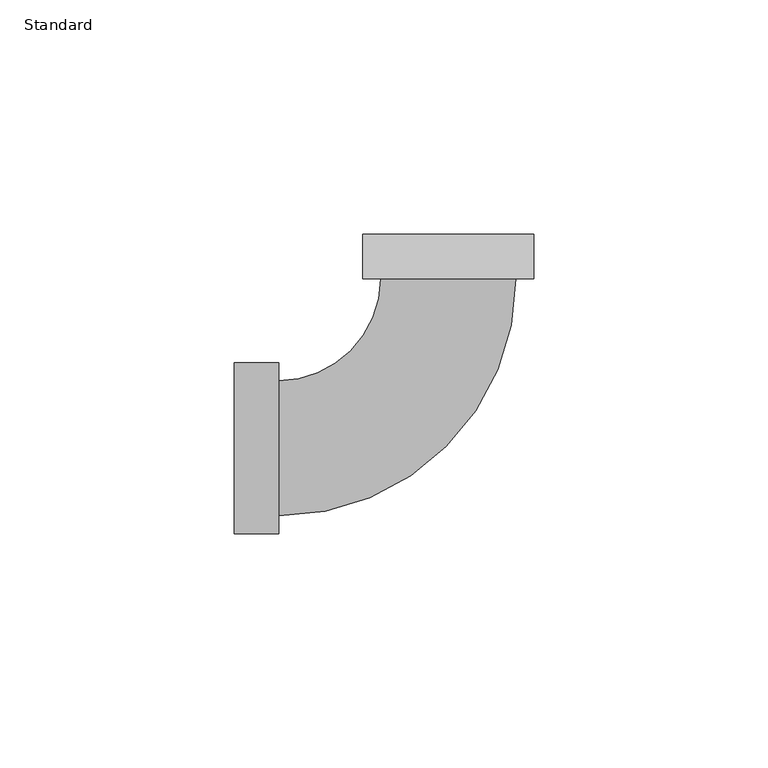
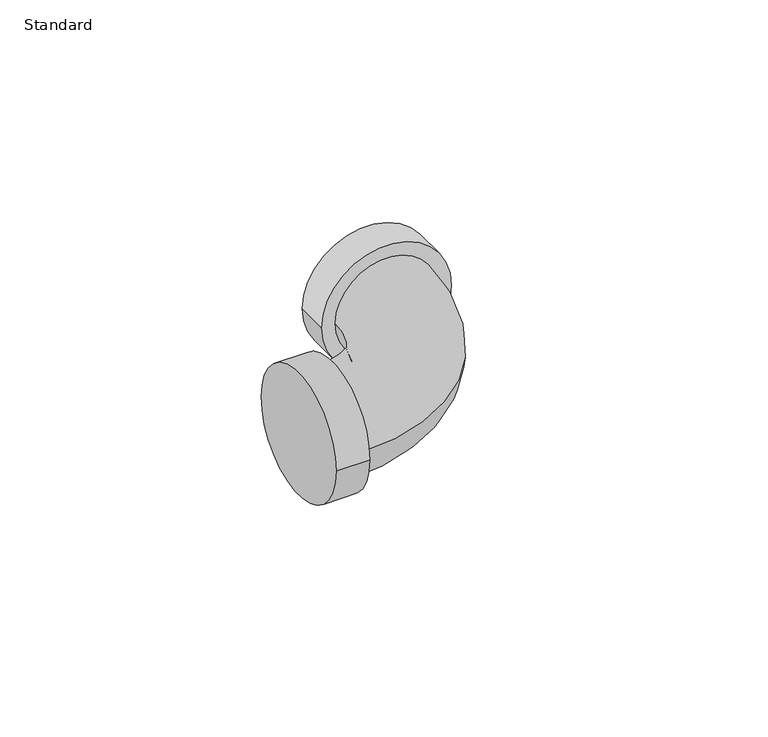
"""IFC4 building model written with IfcOpenShell, lengths in millimetres: pipe fitting geometry, Elbow_45_90-Lubrizol-CPVC-FlowGuard_MX : Standard."""

from ifc_helpers import new_model, si_unit, point, frame, origin, place, context, project, spatial, circle_curve, ellipse_curve, trimmed, source, transform, mapped, element, save
from ifc_brep_helpers import plane_surface, cylinder_surface, revolved_surface, advanced_brep


def standard_4a518940(model_context):
    return source(origin(), model_context, "Body", "AdvancedBrep", [
        advanced_brep(
        [(-45.6540625, -18.2471094, 0.0), (-45.6540625, 18.2471094, 0.0), (-36.1540625, -18.2471094, 0.0), (-36.1540625, 18.2471094, 0.0), (-36.1540625, -14.4440625, 0.0), (-36.1540625, 14.4440625, 0.0), (-14.4440625, 36.1540625, 0.0), (14.4440625, 36.1540625, 0.0), (18.2471094, 36.1540625, 0.0), (-18.2471094, 36.1540625, 0.0), (18.2471094, 45.6540625, 0.0), (-18.2471094, 45.6540625, 0.0)],
        [
            (0, 1, circle_curve(frame((-45.6540625, 0.0, 0.0), z_axis=(-1.0, 0.0, 0.0), x_axis=(0.0, 1.0, 0.0)), 18.2471094)),
            (1, 0, circle_curve(frame((-45.6540625, 0.0, 0.0), z_axis=(-1.0, 0.0, 0.0), x_axis=(0.0, 1.0, 0.0)), 18.2471094)),
            (2, 3, circle_curve(frame((-36.1540625, 0.0, 0.0), z_axis=(1.0, 0.0, 0.0), x_axis=(0.0, 1.0, 0.0)), 18.2471094)),
            (3, 2, circle_curve(frame((-36.1540625, 0.0, 0.0), z_axis=(1.0, 0.0, 0.0), x_axis=(0.0, 1.0, 0.0)), 18.2471094)),
            (4, 5, circle_curve(frame((-36.1540625, 0.0, 0.0), z_axis=(-1.0, 0.0, 0.0), x_axis=(0.0, 1.0, 0.0)), 14.4440625)),
            (5, 4, circle_curve(frame((-36.1540625, 0.0, 0.0), z_axis=(-1.0, 0.0, 0.0), x_axis=(0.0, 1.0, 0.0)), 14.4440625)),
            (0, 2),
            (3, 1),
            (6, 5, circle_curve(frame((-36.1540625, 36.1540625, 0.0), z_axis=(0.0, 0.0, -1.0), x_axis=(0.0, -1.0, 0.0)), 21.71)),
            (4, 7, circle_curve(frame((-36.1540625, 36.1540625, 0.0), z_axis=(0.0, 0.0, 1.0), x_axis=(0.0, -1.0, 0.0)), 50.598125)),
            (7, 6, circle_curve(frame((0.0, 36.1540625, 0.0), z_axis=(0.0, -1.0, 0.0), x_axis=(-1.0, 0.0, 0.0)), 14.4440625)),
            (6, 7, circle_curve(frame((0.0, 36.1540625, 0.0), z_axis=(0.0, -1.0, 0.0), x_axis=(-1.0, 0.0, 0.0)), 14.4440625)),
            (8, 9, circle_curve(frame((0.0, 36.1540625, 0.0), z_axis=(0.0, -1.0, 0.0), x_axis=(-1.0, 0.0, 0.0)), 18.2471094)),
            (9, 8, circle_curve(frame((0.0, 36.1540625, 0.0), z_axis=(0.0, -1.0, 0.0), x_axis=(-1.0, 0.0, 0.0)), 18.2471094)),
            (10, 11, circle_curve(frame((0.0, 45.6540625, 0.0), z_axis=(0.0, 1.0, 0.0), x_axis=(-1.0, 0.0, 0.0)), 18.2471094)),
            (11, 10, circle_curve(frame((0.0, 45.6540625, 0.0), z_axis=(0.0, 1.0, 0.0), x_axis=(-1.0, 0.0, 0.0)), 18.2471094)),
            (8, 10),
            (11, 9),
        ],
        [
            plane_surface(frame((-45.6540625, 0.0, 0.0), z_axis=(-1.0, 0.0, 0.0), x_axis=(0.0, 0.0, 1.0))),
            plane_surface(frame((-36.1540625, 0.0, 0.0), z_axis=(1.0, 0.0, 0.0), x_axis=(0.0, 0.0, 1.0))),
            cylinder_surface(frame((-45.6540625, 0.0, 0.0), z_axis=(-1.0, 0.0, 0.0), x_axis=(0.0, 1.0, 0.0)), 18.2471094),
            revolved_surface(trimmed(ellipse_curve(frame((-36.1540625, 0.0, 0.0), z_axis=(-1.0, 0.0, 0.0), x_axis=(0.0, 1.0, 0.0)), 14.4440625, 14.4440625), [point((-36.1540625, -14.4440625, 0.0))], [point((-36.1540625, 14.4440625, 0.0))], True, "CARTESIAN"), (-36.1540625, 36.1540625, 0.0), (0.0, 0.0, 1.0)),
            revolved_surface(trimmed(ellipse_curve(frame((-36.1540625, 0.0, 0.0), z_axis=(-1.0, 0.0, 0.0), x_axis=(0.0, 1.0, 0.0)), 14.4440625, 14.4440625), [point((-36.1540625, 14.4440625, 0.0))], [point((-36.1540625, -14.4440625, 0.0))], True, "CARTESIAN"), (-36.1540625, 36.1540625, 0.0), (0.0, 0.0, 1.0)),
            plane_surface(frame((0.0, 36.1540625, 0.0), z_axis=(0.0, -1.0, 0.0), x_axis=(0.0, 0.0, 1.0))),
            plane_surface(frame((0.0, 45.6540625, 0.0), z_axis=(0.0, 1.0, 0.0), x_axis=(0.0, 0.0, 1.0))),
            cylinder_surface(frame((0.0, 36.1540625, 0.0), z_axis=(0.0, -1.0, 0.0), x_axis=(-1.0, 0.0, 0.0)), 18.2471094),
        ],
        [
            (0, [[1, 2]]),
            (1, [[3, 4], [5, 6]]),
            (2, [[-1, 7, -4, 8]]),
            (2, [[-2, -8, -3, -7]]),
            (3, [[9, -5, 10, 11]]),
            (4, [[-9, 12, -10, -6]]),
            (5, [[13, 14], [-11, -12]]),
            (6, [[15, 16]]),
            (7, [[-13, 17, -16, 18]]),
            (7, [[-14, -18, -15, -17]]),
        ],
    ),
    ])


if __name__ == "__main__":
    model = new_model("IFC4")
    model_context = context("Model", 3, world=origin())
    ifc_project = project(units=[si_unit("LENGTHUNIT", "METRE", prefix="MILLI")], contexts=[model_context])
    site = spatial("IfcSite", under=ifc_project)
    building = spatial("IfcBuilding", under=site)
    placement = place(None, origin())
    standard_shape = standard_4a518940(model_context)
    element("IfcPipeFitting", 1, ObjectType="Elbow_45_90-Lubrizol-CPVC-FlowGuard_MX : Standard", at=placement, inside=building, context=model_context, shape_type="MappedRepresentation", body=[
        mapped(standard_shape, transform((0.0, 0.0, 0.0), x_axis=(1.0, 0.0, 0.0), y_axis=(0.0, 1.0, 0.0), z_axis=(0.0, 0.0, 1.0))),
    ])
    save(model, "model.ifc")
